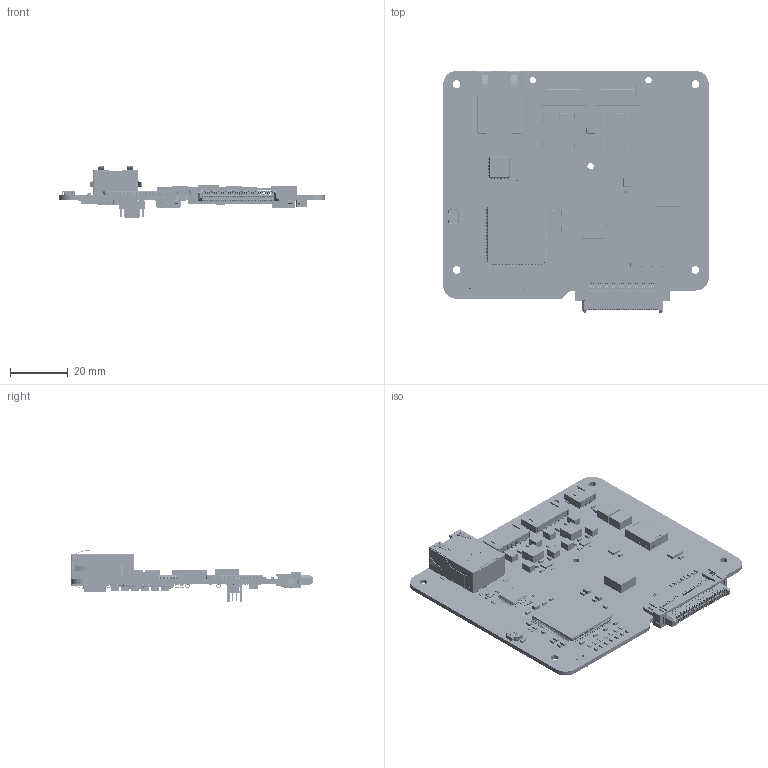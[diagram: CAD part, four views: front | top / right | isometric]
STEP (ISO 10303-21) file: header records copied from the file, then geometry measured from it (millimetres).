
FILE_DESCRIPTION(('Open CASCADE Model'),'2;1');
FILE_NAME('Open CASCADE Shape Model','2026-11-16T13:35:18',('Author'),( 'Open CASCADE'),'Open CASCADE STEP processor 7.5','Open CASCADE 7.5' ,'Unknown');
FILE_SCHEMA(('AUTOMOTIVE_DESIGN { 1 0 10303 214 1 1 1 1 }'));
Length unit declared in the file: millimetre
Products named in the file (512): PCB; Board; Open CASCADE STEP translator 7.5 1.1.1; R40; 1141872; Mid Body; Terminal; Open CASCADE STEP translator 7.5 4.2.1; Mark; TP6; Conn_Harwin_S2761-46R_eec; TP; L1; 74279273; Lötende; PRESS; 25666603; Body; Pins; C52; 65230395; Open CASCADE STEP translator 7.5 11.1.1; Open CASCADE STEP translator 7.5 11.1.2; Open CASCADE STEP translator 7.5 11.2.1; C72; 42688767; Open CASCADE STEP translator 7.5 24.1.1; Open CASCADE STEP translator 7.5 24.1.2; Open CASCADE STEP translator 7.5 24.2.1; C70; 18083059; C62; C60; C81; 33753177; Open CASCADE STEP translator 7.5 7.1.1; Open CASCADE STEP translator 7.5 7.1.2; Open CASCADE STEP translator 7.5 7.2.1; C80; C79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
Assembly tree (678 placements, depth 5):
  PCB
    Board
      Open CASCADE STEP translator 7.5 1.1.1
    R40
      1141872
        Mid Body
        Terminal  x2
          Open CASCADE STEP translator 7.5 4.2.1
        Mark
    TP6
      Conn_Harwin_S2761-46R_eec
        TP
    L1
      74279273
        74279273
        Lötende  x2
    PRESS
      25666603
        Body
        Pins
    C52
      65230395
        Terminal
          Open CASCADE STEP translator 7.5 11.1.1
          Open CASCADE STEP translator 7.5 11.1.2
        Mid Body
          Open CASCADE STEP translator 7.5 11.2.1
    C72
      42688767
        Terminal
          Open CASCADE STEP translator 7.5 24.1.1
          Open CASCADE STEP translator 7.5 24.1.2
        Mid Body
          Open CASCADE STEP translator 7.5 24.2.1
    C70
      18083059
        Terminal
          Open CASCADE STEP translator 7.5 24.1.1
          Open CASCADE STEP translator 7.5 24.1.2
        Mid Body
          Open CASCADE STEP translator 7.5 24.2.1
    C62
      42688767
        Terminal
          Open CASCADE STEP translator 7.5 24.1.1
          Open CASCADE STEP translator 7.5 24.1.2
        Mid Body
          Open CASCADE STEP translator 7.5 24.2.1
    C60
      18083059
        Terminal
          Open CASCADE STEP translator 7.5 24.1.1
          Open CASCADE STEP translator 7.5 24.1.2
        Mid Body
          Open CASCADE STEP translator 7.5 24.2.1
    C81
      33753177
        Terminal
          Open CASCADE STEP translator 7.5 7.1.1
          Open CASCADE STEP translator 7.5 7.1.2
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Bounding box: 92.01 x 83.96 x 17.86 mm (x, y, z)
Volume: 17980 mm3; surface area: 34390.6 mm2
Topology: 1037 solids, 1040 shells, 30338 faces, 78476 edges, 49910 vertices
Faces by surface type: plane 19692, cylinder 8437, sphere 1374, bspline 717, torus 98, extrusion 14, cone 6
Full cylindrical faces by diameter (mm): 0.15 x3, 0.155 x3, 0.173 x1, 0.204 x12, 0.25 x1, 0.3 x2, 0.41 x1, 0.487 x2, 0.5 x4, 0.6 x5, 0.75 x3, 0.8 x2, 0.875 x1, 0.889 x2, 0.9 x2, 1.02 x2, 1.2 x2, 1.4 x2, 2.2 x3, 2.7 x4
Entity records: 637535 total; most frequent: CARTESIAN_POINT 108510, ORIENTED_EDGE 95586, DIRECTION 92181, EDGE_CURVE 47793, VECTOR 36011, LINE 35997, VERTEX_POINT 31048, AXIS2_PLACEMENT_3D 28085
